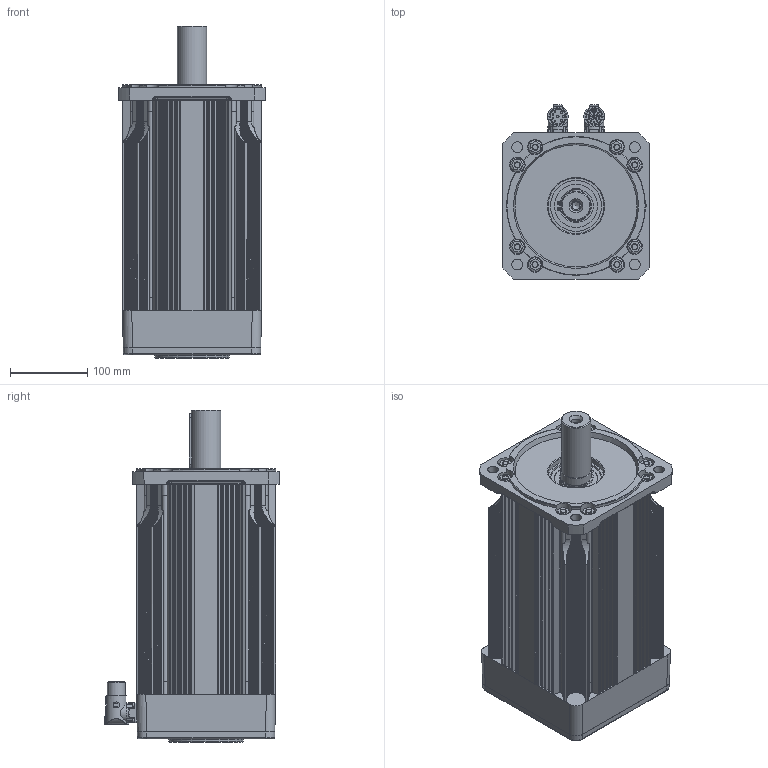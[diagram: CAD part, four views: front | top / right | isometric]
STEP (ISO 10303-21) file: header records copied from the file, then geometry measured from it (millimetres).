
FILE_DESCRIPTION( ( 'Unknown' ), '1' );
FILE_NAME( 'C:/Users/carpi/Desktop/step/Q00839_35.stp', 'Unknown', ( 'Unknown' ), ( 'Unknown' ), 'PSStep 14.0', 'Unknown', ' ' );
FILE_SCHEMA( ( 'AUTOMOTIVE_DESIGN { 1 0 10303 214 1 1 1 1 }' ) );
Length unit declared in the file: millimetre
Products named in the file (35): Assem1; DEFDB M  8; DEFDB M  8-oa0; DEFDB M  8-oa1; DEFDB M  8-oa2; DEFDB M  8-oa3; DEFDB M  8-oa4; DEFDB M  8-oa5; DEFDB M  8-oa6; Vite a brugola testa cil 8,8 -  M 2,5 x 8; Vite a brugola testa cil 8,8 -  M  5 x 16; CUSC_40_90_23_6308_ZZ; A-Ela 40 P; CN M23 PAN-POT BEDC 110 4+4 pin 90°o SpTcR; CN M23 PAN-SEG AEDC 139 17 pin 90°o SpTcR; LI-PIA  10x8 x 70; N33800; N11800; N49800_300; N49800_300-oa7; N49800_300-oa8; N49800_300-oa9; N49800_300-oa10; N49800_300-oa11; N49800_300-oa12; N49800_300-oa13; 003103000989; 003003099226; N25800_L272
Assembly tree (44 placements, depth 2):
  Assem1
    DEFDB M  8
    DEFDB M  8-oa0
    DEFDB M  8-oa1
    DEFDB M  8-oa2
    DEFDB M  8-oa3
    DEFDB M  8-oa4
    DEFDB M  8-oa5
    DEFDB M  8-oa6
    Vite a brugola testa cil 8,8 -  M 2,5 x 8  x8
    Vite a brugola testa cil 8,8 -  M  5 x 16  x4
    CUSC_40_90_23_6308_ZZ
    CUSC_40_90_23_6308_ZZ
    CUSC_40_90_23_6308_ZZ
    CUSC_40_90_23_6308_ZZ
    CUSC_40_90_23_6308_ZZ
    CUSC_40_90_23_6308_ZZ
    CUSC_40_90_23_6308_ZZ
    A-Ela 40 P
    CN M23 PAN-POT BEDC 110 4+4 pin 90°o SpTcR
    CN M23 PAN-SEG AEDC 139 17 pin 90°o SpTcR
    LI-PIA  10x8 x 70
    N33800
    N11800
    N49800_300
    N49800_300-oa7
    N49800_300-oa8
    N49800_300-oa9
    N49800_300-oa10
    N49800_300-oa11
    N49800_300-oa12
    N49800_300-oa13
    003103000989
    003003099226
    N25800_L272
Bounding box: 189.97 x 226.43 x 430 mm (x, y, z)
Volume: 3936712.3 mm3; surface area: 1104833.9 mm2
Topology: 44 solids, 45 shells, 2207 faces, 5579 edges, 3525 vertices
Faces by surface type: cylinder 1025, plane 663, bspline 198, cone 135, torus 104, sphere 82
Full cylindrical faces by diameter (mm): 2 x21, 2.013 x14, 2.5 x10, 2.7 x8, 3 x4, 3.242 x1, 3.3 x4, 4.2 x4, 4.7 x8, 5 x4, 5.5 x5, 6.647 x4, 6.8 x8, 7.8 x8, 8 x24, 8.5 x12, 10 x4, 10.2 x1, 12 x1, 13 x1, 14 x4, 17 x2, 17.9 x8, 19.8 x2, 20 x11, 21.3 x2, 23 x2, 24.5 x2, 30 x1, 37.5 x1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
Entity records: 92310 total; most frequent: CARTESIAN_POINT 31010, DIRECTION 9838, ORIENTED_EDGE 9594, EDGE_CURVE 4797, AXIS2_PLACEMENT_3D 4036, VERTEX_POINT 3222, EDGE_LOOP 2540, FACE_OUTER_BOUND 2272
